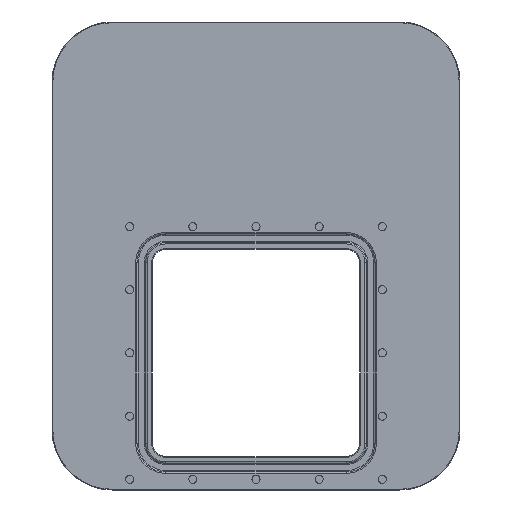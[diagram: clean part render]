
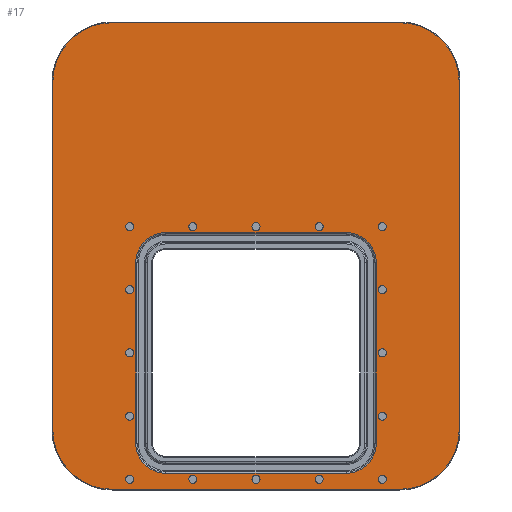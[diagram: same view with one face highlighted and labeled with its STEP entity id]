
A CAD part, front view. The second image highlights one B-rep face of the part: STEP entity #17.
In plain terms, the highlighted planar face has unit normal (0, -1, 0).
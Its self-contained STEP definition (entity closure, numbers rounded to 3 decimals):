
#17 = ADVANCED_FACE('',(#18,#88,#158,#169,#180,#191,#202,#213,#224,#235,
    #246,#257,#268,#279,#290,#301,#312,#323),#334,.F.);
#18 = FACE_BOUND('',#19,.F.);
#19 = EDGE_LOOP('',(#20,#30,#39,#47,#56,#64,#73,#81));
#20 = ORIENTED_EDGE('',*,*,#21,.F.);
#21 = EDGE_CURVE('',#22,#24,#26,.T.);
#22 = VERTEX_POINT('',#23);
#23 = CARTESIAN_POINT('',(45.,-0.,0.5));
#24 = VERTEX_POINT('',#25);
#25 = CARTESIAN_POINT('',(260.,-0.,0.5));
#26 = LINE('',#27,#28);
#27 = CARTESIAN_POINT('',(45.,0.,0.5));
#28 = VECTOR('',#29,1.);
#29 = DIRECTION('',(1.,0.,0.));
#30 = ORIENTED_EDGE('',*,*,#31,.F.);
#31 = EDGE_CURVE('',#32,#22,#34,.T.);
#32 = VERTEX_POINT('',#33);
#33 = CARTESIAN_POINT('',(0.5,-0.,45.));
#34 = CIRCLE('',#35,44.5);
#35 = AXIS2_PLACEMENT_3D('',#36,#37,#38);
#36 = CARTESIAN_POINT('',(45.,0.,45.));
#37 = DIRECTION('',(0.,-1.,-0.));
#38 = DIRECTION('',(-1.,0.,0.));
#39 = ORIENTED_EDGE('',*,*,#40,.F.);
#40 = EDGE_CURVE('',#41,#32,#43,.T.);
#41 = VERTEX_POINT('',#42);
#42 = CARTESIAN_POINT('',(0.5,0.,305.));
#43 = LINE('',#44,#45);
#44 = CARTESIAN_POINT('',(0.5,0.,305.));
#45 = VECTOR('',#46,1.);
#46 = DIRECTION('',(-0.,-0.,-1.));
#47 = ORIENTED_EDGE('',*,*,#48,.F.);
#48 = EDGE_CURVE('',#49,#41,#51,.T.);
#49 = VERTEX_POINT('',#50);
#50 = CARTESIAN_POINT('',(45.,0.,349.5));
#51 = CIRCLE('',#52,44.5);
#52 = AXIS2_PLACEMENT_3D('',#53,#54,#55);
#53 = CARTESIAN_POINT('',(45.,0.,305.));
#54 = DIRECTION('',(-0.,-1.,0.));
#55 = DIRECTION('',(0.,0.,1.));
#56 = ORIENTED_EDGE('',*,*,#57,.F.);
#57 = EDGE_CURVE('',#58,#49,#60,.T.);
#58 = VERTEX_POINT('',#59);
#59 = CARTESIAN_POINT('',(260.,0.,349.5));
#60 = LINE('',#61,#62);
#61 = CARTESIAN_POINT('',(260.,0.,349.5));
#62 = VECTOR('',#63,1.);
#63 = DIRECTION('',(-1.,-0.,-0.));
#64 = ORIENTED_EDGE('',*,*,#65,.F.);
#65 = EDGE_CURVE('',#66,#58,#68,.T.);
#66 = VERTEX_POINT('',#67);
#67 = CARTESIAN_POINT('',(304.5,0.,305.));
#68 = CIRCLE('',#69,44.5);
#69 = AXIS2_PLACEMENT_3D('',#70,#71,#72);
#70 = CARTESIAN_POINT('',(260.,0.,305.));
#71 = DIRECTION('',(-0.,-1.,0.));
#72 = DIRECTION('',(1.,-0.,0.));
#73 = ORIENTED_EDGE('',*,*,#74,.F.);
#74 = EDGE_CURVE('',#75,#66,#77,.T.);
#75 = VERTEX_POINT('',#76);
#76 = CARTESIAN_POINT('',(304.5,0.,45.));
#77 = LINE('',#78,#79);
#78 = CARTESIAN_POINT('',(304.5,0.,45.));
#79 = VECTOR('',#80,1.);
#80 = DIRECTION('',(0.,0.,1.));
#81 = ORIENTED_EDGE('',*,*,#82,.F.);
#82 = EDGE_CURVE('',#24,#75,#83,.T.);
#83 = CIRCLE('',#84,44.5);
#84 = AXIS2_PLACEMENT_3D('',#85,#86,#87);
#85 = CARTESIAN_POINT('',(260.,0.,45.));
#86 = DIRECTION('',(0.,-1.,-0.));
#87 = DIRECTION('',(0.,0.,-1.));
#88 = FACE_BOUND('',#89,.F.);
#89 = EDGE_LOOP('',(#90,#100,#109,#117,#126,#134,#143,#151));
#90 = ORIENTED_EDGE('',*,*,#91,.F.);
#91 = EDGE_CURVE('',#92,#94,#96,.T.);
#92 = VERTEX_POINT('',#93);
#93 = CARTESIAN_POINT('',(62.5,0.,35.));
#94 = VERTEX_POINT('',#95);
#95 = CARTESIAN_POINT('',(62.5,0.,170.));
#96 = LINE('',#97,#98);
#97 = CARTESIAN_POINT('',(62.5,0.,35.));
#98 = VECTOR('',#99,1.);
#99 = DIRECTION('',(0.,0.,1.));
#100 = ORIENTED_EDGE('',*,*,#101,.F.);
#101 = EDGE_CURVE('',#102,#92,#104,.T.);
#102 = VERTEX_POINT('',#103);
#103 = CARTESIAN_POINT('',(85.,0.,12.5));
#104 = CIRCLE('',#105,22.5);
#105 = AXIS2_PLACEMENT_3D('',#106,#107,#108);
#106 = CARTESIAN_POINT('',(85.,0.,35.));
#107 = DIRECTION('',(0.,1.,0.));
#108 = DIRECTION('',(0.,0.,-1.));
#109 = ORIENTED_EDGE('',*,*,#110,.F.);
#110 = EDGE_CURVE('',#111,#102,#113,.T.);
#111 = VERTEX_POINT('',#112);
#112 = CARTESIAN_POINT('',(220.,0.,12.5));
#113 = LINE('',#114,#115);
#114 = CARTESIAN_POINT('',(220.,0.,12.5));
#115 = VECTOR('',#116,1.);
#116 = DIRECTION('',(-1.,-0.,-0.));
#117 = ORIENTED_EDGE('',*,*,#118,.F.);
#118 = EDGE_CURVE('',#119,#111,#121,.T.);
#119 = VERTEX_POINT('',#120);
#120 = CARTESIAN_POINT('',(242.5,0.,35.));
#121 = CIRCLE('',#122,22.5);
#122 = AXIS2_PLACEMENT_3D('',#123,#124,#125);
#123 = CARTESIAN_POINT('',(220.,0.,35.));
#124 = DIRECTION('',(0.,1.,0.));
#125 = DIRECTION('',(1.,0.,0.));
#126 = ORIENTED_EDGE('',*,*,#127,.F.);
#127 = EDGE_CURVE('',#128,#119,#130,.T.);
#128 = VERTEX_POINT('',#129);
#129 = CARTESIAN_POINT('',(242.5,0.,170.));
#130 = LINE('',#131,#132);
#131 = CARTESIAN_POINT('',(242.5,0.,170.));
#132 = VECTOR('',#133,1.);
#133 = DIRECTION('',(-0.,-0.,-1.));
#134 = ORIENTED_EDGE('',*,*,#135,.F.);
#135 = EDGE_CURVE('',#136,#128,#138,.T.);
#136 = VERTEX_POINT('',#137);
#137 = CARTESIAN_POINT('',(220.,0.,192.5));
#138 = CIRCLE('',#139,22.5);
#139 = AXIS2_PLACEMENT_3D('',#140,#141,#142);
#140 = CARTESIAN_POINT('',(220.,0.,170.));
#141 = DIRECTION('',(0.,1.,0.));
#142 = DIRECTION('',(0.,0.,1.));
#143 = ORIENTED_EDGE('',*,*,#144,.F.);
#144 = EDGE_CURVE('',#145,#136,#147,.T.);
#145 = VERTEX_POINT('',#146);
#146 = CARTESIAN_POINT('',(85.,0.,192.5));
#147 = LINE('',#148,#149);
#148 = CARTESIAN_POINT('',(85.,0.,192.5));
#149 = VECTOR('',#150,1.);
#150 = DIRECTION('',(1.,0.,0.));
#151 = ORIENTED_EDGE('',*,*,#152,.F.);
#152 = EDGE_CURVE('',#94,#145,#153,.T.);
#153 = CIRCLE('',#154,22.5);
#154 = AXIS2_PLACEMENT_3D('',#155,#156,#157);
#155 = CARTESIAN_POINT('',(85.,0.,170.));
#156 = DIRECTION('',(0.,1.,-0.));
#157 = DIRECTION('',(-1.,0.,0.));
#158 = FACE_BOUND('',#159,.F.);
#159 = EDGE_LOOP('',(#160));
#160 = ORIENTED_EDGE('',*,*,#161,.T.);
#161 = EDGE_CURVE('',#162,#162,#164,.T.);
#162 = VERTEX_POINT('',#163);
#163 = CARTESIAN_POINT('',(61.,0.,8.));
#164 = CIRCLE('',#165,3.);
#165 = AXIS2_PLACEMENT_3D('',#166,#167,#168);
#166 = CARTESIAN_POINT('',(58.,0.,8.));
#167 = DIRECTION('',(0.,-1.,0.));
#168 = DIRECTION('',(1.,0.,0.));
#169 = FACE_BOUND('',#170,.F.);
#170 = EDGE_LOOP('',(#171));
#171 = ORIENTED_EDGE('',*,*,#172,.T.);
#172 = EDGE_CURVE('',#173,#173,#175,.T.);
#173 = VERTEX_POINT('',#174);
#174 = CARTESIAN_POINT('',(61.,0.,55.25));
#175 = CIRCLE('',#176,3.);
#176 = AXIS2_PLACEMENT_3D('',#177,#178,#179);
#177 = CARTESIAN_POINT('',(58.,0.,55.25));
#178 = DIRECTION('',(0.,-1.,0.));
#179 = DIRECTION('',(1.,0.,0.));
#180 = FACE_BOUND('',#181,.F.);
#181 = EDGE_LOOP('',(#182));
#182 = ORIENTED_EDGE('',*,*,#183,.T.);
#183 = EDGE_CURVE('',#184,#184,#186,.T.);
#184 = VERTEX_POINT('',#185);
#185 = CARTESIAN_POINT('',(108.25,0.,8.));
#186 = CIRCLE('',#187,3.);
#187 = AXIS2_PLACEMENT_3D('',#188,#189,#190);
#188 = CARTESIAN_POINT('',(105.25,0.,8.));
#189 = DIRECTION('',(0.,-1.,0.));
#190 = DIRECTION('',(1.,0.,0.));
#191 = FACE_BOUND('',#192,.F.);
#192 = EDGE_LOOP('',(#193));
#193 = ORIENTED_EDGE('',*,*,#194,.T.);
#194 = EDGE_CURVE('',#195,#195,#197,.T.);
#195 = VERTEX_POINT('',#196);
#196 = CARTESIAN_POINT('',(61.,0.,102.5));
#197 = CIRCLE('',#198,3.);
#198 = AXIS2_PLACEMENT_3D('',#199,#200,#201);
#199 = CARTESIAN_POINT('',(58.,0.,102.5));
#200 = DIRECTION('',(0.,-1.,0.));
#201 = DIRECTION('',(1.,0.,0.));
#202 = FACE_BOUND('',#203,.F.);
#203 = EDGE_LOOP('',(#204));
#204 = ORIENTED_EDGE('',*,*,#205,.T.);
#205 = EDGE_CURVE('',#206,#206,#208,.T.);
#206 = VERTEX_POINT('',#207);
#207 = CARTESIAN_POINT('',(61.,0.,149.75));
#208 = CIRCLE('',#209,3.);
#209 = AXIS2_PLACEMENT_3D('',#210,#211,#212);
#210 = CARTESIAN_POINT('',(58.,0.,149.75));
#211 = DIRECTION('',(0.,-1.,0.));
#212 = DIRECTION('',(1.,0.,0.));
#213 = FACE_BOUND('',#214,.F.);
#214 = EDGE_LOOP('',(#215));
#215 = ORIENTED_EDGE('',*,*,#216,.T.);
#216 = EDGE_CURVE('',#217,#217,#219,.T.);
#217 = VERTEX_POINT('',#218);
#218 = CARTESIAN_POINT('',(61.,0.,197.));
#219 = CIRCLE('',#220,3.);
#220 = AXIS2_PLACEMENT_3D('',#221,#222,#223);
#221 = CARTESIAN_POINT('',(58.,0.,197.));
#222 = DIRECTION('',(0.,-1.,0.));
#223 = DIRECTION('',(1.,0.,0.));
#224 = FACE_BOUND('',#225,.F.);
#225 = EDGE_LOOP('',(#226));
#226 = ORIENTED_EDGE('',*,*,#227,.T.);
#227 = EDGE_CURVE('',#228,#228,#230,.T.);
#228 = VERTEX_POINT('',#229);
#229 = CARTESIAN_POINT('',(108.25,0.,197.));
#230 = CIRCLE('',#231,3.);
#231 = AXIS2_PLACEMENT_3D('',#232,#233,#234);
#232 = CARTESIAN_POINT('',(105.25,0.,197.));
#233 = DIRECTION('',(0.,-1.,0.));
#234 = DIRECTION('',(1.,0.,0.));
#235 = FACE_BOUND('',#236,.F.);
#236 = EDGE_LOOP('',(#237));
#237 = ORIENTED_EDGE('',*,*,#238,.T.);
#238 = EDGE_CURVE('',#239,#239,#241,.T.);
#239 = VERTEX_POINT('',#240);
#240 = CARTESIAN_POINT('',(155.5,0.,8.));
#241 = CIRCLE('',#242,3.);
#242 = AXIS2_PLACEMENT_3D('',#243,#244,#245);
#243 = CARTESIAN_POINT('',(152.5,0.,8.));
#244 = DIRECTION('',(0.,-1.,0.));
#245 = DIRECTION('',(1.,0.,0.));
#246 = FACE_BOUND('',#247,.F.);
#247 = EDGE_LOOP('',(#248));
#248 = ORIENTED_EDGE('',*,*,#249,.T.);
#249 = EDGE_CURVE('',#250,#250,#252,.T.);
#250 = VERTEX_POINT('',#251);
#251 = CARTESIAN_POINT('',(202.75,0.,8.));
#252 = CIRCLE('',#253,3.);
#253 = AXIS2_PLACEMENT_3D('',#254,#255,#256);
#254 = CARTESIAN_POINT('',(199.75,0.,8.));
#255 = DIRECTION('',(0.,-1.,0.));
#256 = DIRECTION('',(1.,0.,0.));
#257 = FACE_BOUND('',#258,.F.);
#258 = EDGE_LOOP('',(#259));
#259 = ORIENTED_EDGE('',*,*,#260,.T.);
#260 = EDGE_CURVE('',#261,#261,#263,.T.);
#261 = VERTEX_POINT('',#262);
#262 = CARTESIAN_POINT('',(250.,0.,8.));
#263 = CIRCLE('',#264,3.);
#264 = AXIS2_PLACEMENT_3D('',#265,#266,#267);
#265 = CARTESIAN_POINT('',(247.,0.,8.));
#266 = DIRECTION('',(0.,-1.,0.));
#267 = DIRECTION('',(1.,0.,0.));
#268 = FACE_BOUND('',#269,.F.);
#269 = EDGE_LOOP('',(#270));
#270 = ORIENTED_EDGE('',*,*,#271,.T.);
#271 = EDGE_CURVE('',#272,#272,#274,.T.);
#272 = VERTEX_POINT('',#273);
#273 = CARTESIAN_POINT('',(250.,0.,55.25));
#274 = CIRCLE('',#275,3.);
#275 = AXIS2_PLACEMENT_3D('',#276,#277,#278);
#276 = CARTESIAN_POINT('',(247.,0.,55.25));
#277 = DIRECTION('',(0.,-1.,0.));
#278 = DIRECTION('',(1.,0.,0.));
#279 = FACE_BOUND('',#280,.F.);
#280 = EDGE_LOOP('',(#281));
#281 = ORIENTED_EDGE('',*,*,#282,.T.);
#282 = EDGE_CURVE('',#283,#283,#285,.T.);
#283 = VERTEX_POINT('',#284);
#284 = CARTESIAN_POINT('',(155.5,0.,197.));
#285 = CIRCLE('',#286,3.);
#286 = AXIS2_PLACEMENT_3D('',#287,#288,#289);
#287 = CARTESIAN_POINT('',(152.5,0.,197.));
#288 = DIRECTION('',(0.,-1.,0.));
#289 = DIRECTION('',(1.,0.,0.));
#290 = FACE_BOUND('',#291,.F.);
#291 = EDGE_LOOP('',(#292));
#292 = ORIENTED_EDGE('',*,*,#293,.T.);
#293 = EDGE_CURVE('',#294,#294,#296,.T.);
#294 = VERTEX_POINT('',#295);
#295 = CARTESIAN_POINT('',(202.75,0.,197.));
#296 = CIRCLE('',#297,3.);
#297 = AXIS2_PLACEMENT_3D('',#298,#299,#300);
#298 = CARTESIAN_POINT('',(199.75,0.,197.));
#299 = DIRECTION('',(0.,-1.,0.));
#300 = DIRECTION('',(1.,0.,0.));
#301 = FACE_BOUND('',#302,.F.);
#302 = EDGE_LOOP('',(#303));
#303 = ORIENTED_EDGE('',*,*,#304,.T.);
#304 = EDGE_CURVE('',#305,#305,#307,.T.);
#305 = VERTEX_POINT('',#306);
#306 = CARTESIAN_POINT('',(250.,0.,102.5));
#307 = CIRCLE('',#308,3.);
#308 = AXIS2_PLACEMENT_3D('',#309,#310,#311);
#309 = CARTESIAN_POINT('',(247.,0.,102.5));
#310 = DIRECTION('',(0.,-1.,0.));
#311 = DIRECTION('',(1.,0.,0.));
#312 = FACE_BOUND('',#313,.F.);
#313 = EDGE_LOOP('',(#314));
#314 = ORIENTED_EDGE('',*,*,#315,.T.);
#315 = EDGE_CURVE('',#316,#316,#318,.T.);
#316 = VERTEX_POINT('',#317);
#317 = CARTESIAN_POINT('',(250.,0.,149.75));
#318 = CIRCLE('',#319,3.);
#319 = AXIS2_PLACEMENT_3D('',#320,#321,#322);
#320 = CARTESIAN_POINT('',(247.,0.,149.75));
#321 = DIRECTION('',(0.,-1.,0.));
#322 = DIRECTION('',(1.,0.,0.));
#323 = FACE_BOUND('',#324,.F.);
#324 = EDGE_LOOP('',(#325));
#325 = ORIENTED_EDGE('',*,*,#326,.T.);
#326 = EDGE_CURVE('',#327,#327,#329,.T.);
#327 = VERTEX_POINT('',#328);
#328 = CARTESIAN_POINT('',(250.,0.,197.));
#329 = CIRCLE('',#330,3.);
#330 = AXIS2_PLACEMENT_3D('',#331,#332,#333);
#331 = CARTESIAN_POINT('',(247.,0.,197.));
#332 = DIRECTION('',(0.,-1.,0.));
#333 = DIRECTION('',(1.,0.,0.));
#334 = PLANE('',#335);
#335 = AXIS2_PLACEMENT_3D('',#336,#337,#338);
#336 = CARTESIAN_POINT('',(0.,0.,0.));
#337 = DIRECTION('',(0.,1.,0.));
#338 = DIRECTION('',(0.,0.,1.));
